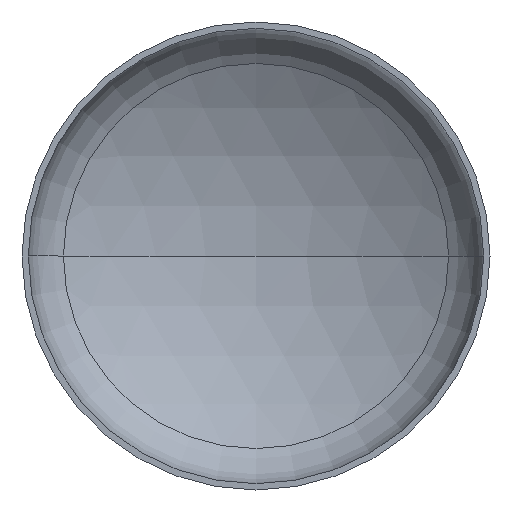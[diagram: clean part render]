
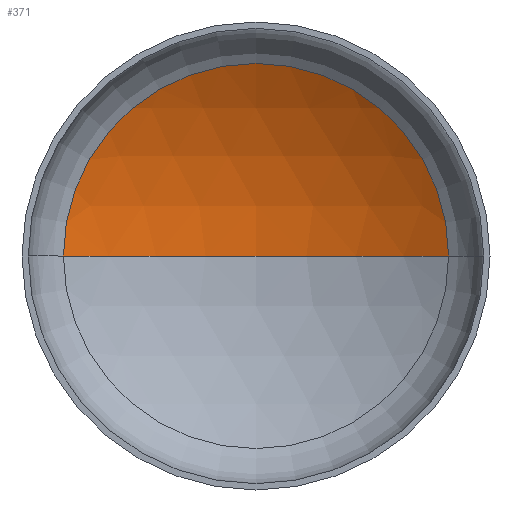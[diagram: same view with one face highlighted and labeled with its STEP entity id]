
A CAD part, front view. The second image highlights one B-rep face of the part: STEP entity #371.
In plain terms, the highlighted spherical face has radius 2720 mm.
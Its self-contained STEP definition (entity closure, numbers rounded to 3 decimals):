
#3 = AXIS2_PLACEMENT_3D ( 'NONE', #170, #330, #374 ) ;
#23 = AXIS2_PLACEMENT_3D ( 'NONE', #273, #267, #263 ) ;
#33 = EDGE_LOOP ( 'NONE', ( #130, #132, #91 ) ) ;
#37 = AXIS2_PLACEMENT_3D ( 'NONE', #281, #301, #154 ) ;
#51 = VERTEX_POINT ( 'NONE', #365 ) ;
#91 = ORIENTED_EDGE ( 'NONE', *, *, #142, .T. ) ;
#116 = VERTEX_POINT ( 'NONE', #240 ) ;
#122 = VERTEX_POINT ( 'NONE', #208 ) ;
#129 = AXIS2_PLACEMENT_3D ( 'NONE', #362, #152, #225 ) ;
#130 = ORIENTED_EDGE ( 'NONE', *, *, #350, .F. ) ;
#132 = ORIENTED_EDGE ( 'NONE', *, *, #158, .T. ) ;
#142 = EDGE_CURVE ( 'NONE', #51, #116, #368, .T. ) ;
#152 = DIRECTION ( 'NONE',  ( 0., 0., -1. ) ) ;
#154 = DIRECTION ( 'NONE',  ( 1., 0., 0. ) ) ;
#158 = EDGE_CURVE ( 'NONE', #122, #51, #164, .T. ) ;
#164 = CIRCLE ( 'NONE', #23, 2720. ) ;
#170 = CARTESIAN_POINT ( 'NONE',  ( 0., -1742.388, 0. ) ) ;
#208 = CARTESIAN_POINT ( 'NONE',  ( 0., 977.612, 0. ) ) ;
#225 = DIRECTION ( 'NONE',  ( -1., 0., 0. ) ) ;
#240 = CARTESIAN_POINT ( 'NONE',  ( -1399.034, 590.229, 0. ) ) ;
#263 = DIRECTION ( 'NONE',  ( -1., 0., 0. ) ) ;
#267 = DIRECTION ( 'NONE',  ( 0., 0., -1. ) ) ;
#273 = CARTESIAN_POINT ( 'NONE',  ( 0., -1742.388, 0. ) ) ;
#281 = CARTESIAN_POINT ( 'NONE',  ( 0., 590.229, 0. ) ) ;
#301 = DIRECTION ( 'NONE',  ( 0., -1., 0. ) ) ;
#330 = DIRECTION ( 'NONE',  ( 0., 0., 1. ) ) ;
#332 = FACE_OUTER_BOUND ( 'NONE', #33, .T. ) ;
#350 = EDGE_CURVE ( 'NONE', #122, #116, #397, .T. ) ;
#362 = CARTESIAN_POINT ( 'NONE',  ( 0., -1742.388, 0. ) ) ;
#365 = CARTESIAN_POINT ( 'NONE',  ( 1399.034, 590.229, 0. ) ) ;
#368 = CIRCLE ( 'NONE', #37, 1399.034 ) ;
#371 = ADVANCED_FACE ( 'NONE', ( #332 ), #384, .F. ) ;
#374 = DIRECTION ( 'NONE',  ( 1., 0., 0. ) ) ;
#384 = SPHERICAL_SURFACE ( 'NONE', #129, 2720. ) ;
#397 = CIRCLE ( 'NONE', #3, 2720. ) ;
